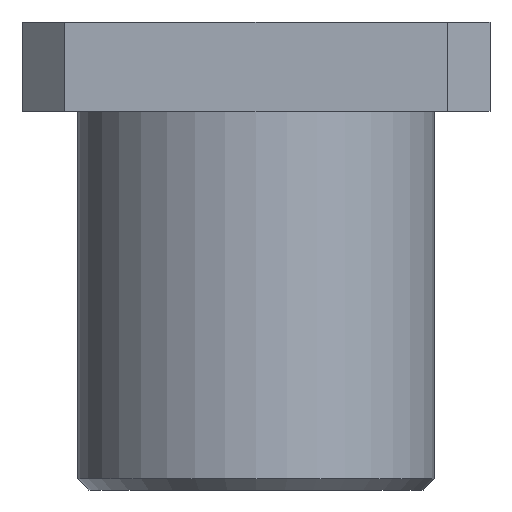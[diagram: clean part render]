
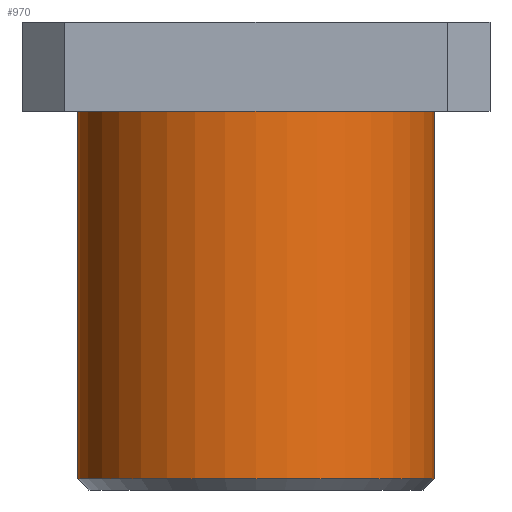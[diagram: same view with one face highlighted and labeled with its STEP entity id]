
A CAD part, front view. The second image highlights one B-rep face of the part: STEP entity #970.
In plain terms, the highlighted cylindrical face has radius 16 mm (diameter 32 mm), a partial arc.
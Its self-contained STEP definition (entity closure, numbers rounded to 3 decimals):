
#34 = CYLINDRICAL_SURFACE ( 'NONE', #376, 16. ) ;
#127 = EDGE_CURVE ( 'NONE', #900, #190, #553, .T. ) ;
#140 = VECTOR ( 'NONE', #464, 1000. ) ;
#190 = VERTEX_POINT ( 'NONE', #749 ) ;
#196 = EDGE_LOOP ( 'NONE', ( #470, #445, #218, #471 ) ) ;
#203 = DIRECTION ( 'NONE',  ( -1., 0., 0. ) ) ;
#213 = AXIS2_PLACEMENT_3D ( 'NONE', #743, #1106, #291 ) ;
#218 = ORIENTED_EDGE ( 'NONE', *, *, #127, .T. ) ;
#219 = CARTESIAN_POINT ( 'NONE',  ( -16., 0., 34. ) ) ;
#261 = CARTESIAN_POINT ( 'NONE',  ( -16., 0., 42. ) ) ;
#291 = DIRECTION ( 'NONE',  ( 1., 0., 0. ) ) ;
#297 = DIRECTION ( 'NONE',  ( 0., 0., -1. ) ) ;
#324 = EDGE_CURVE ( 'NONE', #877, #886, #684, .T. ) ;
#376 = AXIS2_PLACEMENT_3D ( 'NONE', #514, #1171, #716 ) ;
#445 = ORIENTED_EDGE ( 'NONE', *, *, #578, .T. ) ;
#464 = DIRECTION ( 'NONE',  ( 0., 0., -1. ) ) ;
#470 = ORIENTED_EDGE ( 'NONE', *, *, #324, .F. ) ;
#471 = ORIENTED_EDGE ( 'NONE', *, *, #688, .T. ) ;
#483 = CIRCLE ( 'NONE', #213, 16. ) ;
#514 = CARTESIAN_POINT ( 'NONE',  ( 0., 0., 42. ) ) ;
#553 = LINE ( 'NONE', #261, #140 ) ;
#578 = EDGE_CURVE ( 'NONE', #877, #900, #731, .T. ) ;
#646 = CARTESIAN_POINT ( 'NONE',  ( 0., 0., 34. ) ) ;
#680 = CARTESIAN_POINT ( 'NONE',  ( 16., 0., 34. ) ) ;
#684 = LINE ( 'NONE', #1042, #892 ) ;
#688 = EDGE_CURVE ( 'NONE', #190, #886, #483, .T. ) ;
#716 = DIRECTION ( 'NONE',  ( -1., 0., 0. ) ) ;
#731 = CIRCLE ( 'NONE', #1052, 16. ) ;
#743 = CARTESIAN_POINT ( 'NONE',  ( 0., 0., 1. ) ) ;
#749 = CARTESIAN_POINT ( 'NONE',  ( -16., 0., 1. ) ) ;
#857 = FACE_OUTER_BOUND ( 'NONE', #196, .T. ) ;
#877 = VERTEX_POINT ( 'NONE', #680 ) ;
#886 = VERTEX_POINT ( 'NONE', #959 ) ;
#892 = VECTOR ( 'NONE', #1141, 1000. ) ;
#900 = VERTEX_POINT ( 'NONE', #219 ) ;
#959 = CARTESIAN_POINT ( 'NONE',  ( 16., 0., 1. ) ) ;
#970 = ADVANCED_FACE ( 'NONE', ( #857 ), #34, .T. ) ;
#1042 = CARTESIAN_POINT ( 'NONE',  ( 16., 0., 42. ) ) ;
#1052 = AXIS2_PLACEMENT_3D ( 'NONE', #646, #297, #203 ) ;
#1106 = DIRECTION ( 'NONE',  ( 0., 0., 1. ) ) ;
#1141 = DIRECTION ( 'NONE',  ( 0., 0., -1. ) ) ;
#1171 = DIRECTION ( 'NONE',  ( 0., 0., -1. ) ) ;
